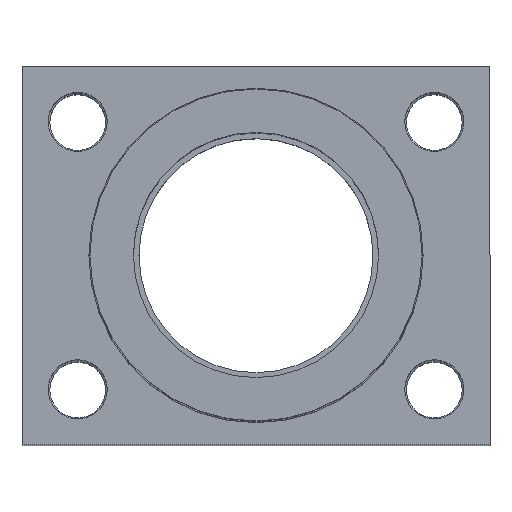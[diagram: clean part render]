
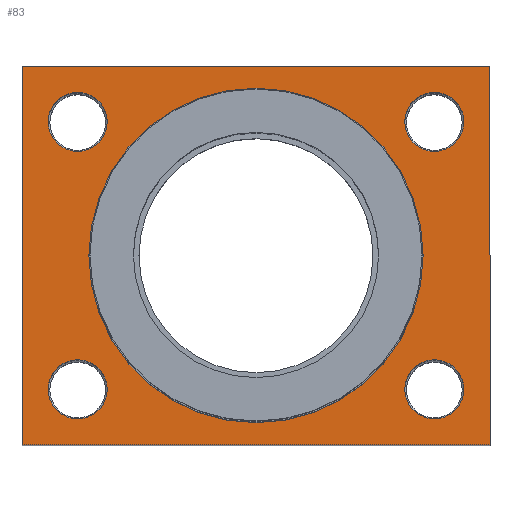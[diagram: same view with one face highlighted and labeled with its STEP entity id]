
A CAD part, top view. The second image highlights one B-rep face of the part: STEP entity #83.
In plain terms, the highlighted planar face has unit normal (0, 0, 1).
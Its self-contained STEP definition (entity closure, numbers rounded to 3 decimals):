
#15 = EDGE_LOOP ( 'NONE', ( #1266, #22, #41, #778 ) ) ;
#22 = ORIENTED_EDGE ( 'NONE', *, *, #1739, .T. ) ;
#41 = ORIENTED_EDGE ( 'NONE', *, *, #1457, .T. ) ;
#49 = EDGE_CURVE ( 'NONE', #1110, #50, #786, .T. ) ;
#50 = VERTEX_POINT ( 'NONE', #1218 ) ;
#51 = ORIENTED_EDGE ( 'NONE', *, *, #900, .F. ) ;
#83 = ADVANCED_FACE ( 'NONE', ( #483, #1100, #1272, #1710, #1108, #178 ), #1724, .T. ) ;
#117 = CARTESIAN_POINT ( 'NONE',  ( -16., 12., 8. ) ) ;
#167 = CARTESIAN_POINT ( 'NONE',  ( -21., -17., 8. ) ) ;
#173 = CIRCLE ( 'NONE', #1571, 2.65 ) ;
#176 = CARTESIAN_POINT ( 'NONE',  ( -16., -12., 8. ) ) ;
#178 = FACE_OUTER_BOUND ( 'NONE', #15, .T. ) ;
#179 = LINE ( 'NONE', #1233, #1469 ) ;
#222 = DIRECTION ( 'NONE',  ( 0., 0., 1. ) ) ;
#233 = VECTOR ( 'NONE', #549, 1000. ) ;
#241 = CARTESIAN_POINT ( 'NONE',  ( 16., -12., 8. ) ) ;
#249 = DIRECTION ( 'NONE',  ( 1., 0., 0. ) ) ;
#278 = EDGE_LOOP ( 'NONE', ( #1140, #394 ) ) ;
#284 = EDGE_CURVE ( 'NONE', #771, #477, #1926, .T. ) ;
#289 = CARTESIAN_POINT ( 'NONE',  ( -13.35, -12., 8. ) ) ;
#312 = DIRECTION ( 'NONE',  ( 1., 0., 0. ) ) ;
#324 = CIRCLE ( 'NONE', #1271, 2.65 ) ;
#330 = CIRCLE ( 'NONE', #1115, 2.65 ) ;
#345 = CARTESIAN_POINT ( 'NONE',  ( -21., -17., 8. ) ) ;
#351 = ORIENTED_EDGE ( 'NONE', *, *, #1555, .F. ) ;
#382 = EDGE_CURVE ( 'NONE', #50, #1110, #1340, .T. ) ;
#394 = ORIENTED_EDGE ( 'NONE', *, *, #1460, .F. ) ;
#421 = VERTEX_POINT ( 'NONE', #1834 ) ;
#468 = AXIS2_PLACEMENT_3D ( 'NONE', #907, #1228, #899 ) ;
#469 = CARTESIAN_POINT ( 'NONE',  ( 16., 12., 8. ) ) ;
#472 = CARTESIAN_POINT ( 'NONE',  ( 16., 12., 8. ) ) ;
#475 = CIRCLE ( 'NONE', #1510, 15. ) ;
#477 = VERTEX_POINT ( 'NONE', #887 ) ;
#483 = FACE_BOUND ( 'NONE', #1254, .T. ) ;
#495 = CIRCLE ( 'NONE', #761, 2.65 ) ;
#509 = ORIENTED_EDGE ( 'NONE', *, *, #751, .F. ) ;
#534 = VECTOR ( 'NONE', #1686, 1000. ) ;
#549 = DIRECTION ( 'NONE',  ( 0., -1., 0. ) ) ;
#552 = VERTEX_POINT ( 'NONE', #783 ) ;
#564 = AXIS2_PLACEMENT_3D ( 'NONE', #1757, #222, #985 ) ;
#580 = VERTEX_POINT ( 'NONE', #1549 ) ;
#605 = EDGE_CURVE ( 'NONE', #1857, #1906, #732, .T. ) ;
#636 = CARTESIAN_POINT ( 'NONE',  ( -16., -12., 8. ) ) ;
#646 = VERTEX_POINT ( 'NONE', #1446 ) ;
#650 = CARTESIAN_POINT ( 'NONE',  ( 13.35, -12., 8. ) ) ;
#694 = CIRCLE ( 'NONE', #860, 2.65 ) ;
#698 = VERTEX_POINT ( 'NONE', #810 ) ;
#701 = CARTESIAN_POINT ( 'NONE',  ( 16., -12., 8. ) ) ;
#709 = DIRECTION ( 'NONE',  ( 0., 0., 1. ) ) ;
#724 = ORIENTED_EDGE ( 'NONE', *, *, #49, .F. ) ;
#729 = AXIS2_PLACEMENT_3D ( 'NONE', #636, #1258, #1715 ) ;
#732 = CIRCLE ( 'NONE', #729, 2.65 ) ;
#733 = LINE ( 'NONE', #1796, #233 ) ;
#748 = DIRECTION ( 'NONE',  ( 1., 0., 0. ) ) ;
#751 = EDGE_CURVE ( 'NONE', #477, #771, #475, .T. ) ;
#759 = AXIS2_PLACEMENT_3D ( 'NONE', #1716, #2013, #1700 ) ;
#761 = AXIS2_PLACEMENT_3D ( 'NONE', #472, #1092, #312 ) ;
#771 = VERTEX_POINT ( 'NONE', #866 ) ;
#778 = ORIENTED_EDGE ( 'NONE', *, *, #1913, .T. ) ;
#783 = CARTESIAN_POINT ( 'NONE',  ( -21., 17., 8. ) ) ;
#786 = CIRCLE ( 'NONE', #916, 2.65 ) ;
#790 = DIRECTION ( 'NONE',  ( 0., 0., 1. ) ) ;
#805 = EDGE_LOOP ( 'NONE', ( #1073, #724 ) ) ;
#810 = CARTESIAN_POINT ( 'NONE',  ( 13.35, 12., 8. ) ) ;
#852 = VERTEX_POINT ( 'NONE', #1631 ) ;
#860 = AXIS2_PLACEMENT_3D ( 'NONE', #241, #709, #1487 ) ;
#866 = CARTESIAN_POINT ( 'NONE',  ( -15., 0., 8. ) ) ;
#887 = CARTESIAN_POINT ( 'NONE',  ( 15., 0., 8. ) ) ;
#899 = DIRECTION ( 'NONE',  ( 1., 0., 0. ) ) ;
#900 = EDGE_CURVE ( 'NONE', #1427, #421, #694, .T. ) ;
#907 = CARTESIAN_POINT ( 'NONE',  ( -16., 12., 8. ) ) ;
#916 = AXIS2_PLACEMENT_3D ( 'NONE', #117, #1532, #748 ) ;
#985 = DIRECTION ( 'NONE',  ( 1., 0., 0. ) ) ;
#995 = ORIENTED_EDGE ( 'NONE', *, *, #1892, .F. ) ;
#1073 = ORIENTED_EDGE ( 'NONE', *, *, #382, .F. ) ;
#1092 = DIRECTION ( 'NONE',  ( 0., 0., 1. ) ) ;
#1100 = FACE_BOUND ( 'NONE', #805, .T. ) ;
#1108 = FACE_BOUND ( 'NONE', #1294, .T. ) ;
#1110 = VERTEX_POINT ( 'NONE', #2006 ) ;
#1115 = AXIS2_PLACEMENT_3D ( 'NONE', #176, #790, #1720 ) ;
#1140 = ORIENTED_EDGE ( 'NONE', *, *, #605, .F. ) ;
#1180 = CARTESIAN_POINT ( 'NONE',  ( 0., 0., 8. ) ) ;
#1204 = EDGE_CURVE ( 'NONE', #421, #1427, #173, .T. ) ;
#1218 = CARTESIAN_POINT ( 'NONE',  ( -13.35, 12., 8. ) ) ;
#1228 = DIRECTION ( 'NONE',  ( 0., 0., 1. ) ) ;
#1233 = CARTESIAN_POINT ( 'NONE',  ( 21., 17., 8. ) ) ;
#1243 = VECTOR ( 'NONE', #1369, 1000. ) ;
#1254 = EDGE_LOOP ( 'NONE', ( #351, #995 ) ) ;
#1258 = DIRECTION ( 'NONE',  ( 0., 0., 1. ) ) ;
#1266 = ORIENTED_EDGE ( 'NONE', *, *, #1941, .T. ) ;
#1271 = AXIS2_PLACEMENT_3D ( 'NONE', #469, #1740, #1273 ) ;
#1272 = FACE_BOUND ( 'NONE', #278, .T. ) ;
#1273 = DIRECTION ( 'NONE',  ( 1., 0., 0. ) ) ;
#1294 = EDGE_LOOP ( 'NONE', ( #509, #1485 ) ) ;
#1340 = CIRCLE ( 'NONE', #468, 2.65 ) ;
#1369 = DIRECTION ( 'NONE',  ( 0., 1., 0. ) ) ;
#1427 = VERTEX_POINT ( 'NONE', #650 ) ;
#1439 = CARTESIAN_POINT ( 'NONE',  ( -18.65, -12., 8. ) ) ;
#1446 = CARTESIAN_POINT ( 'NONE',  ( 21., -17., 8. ) ) ;
#1457 = EDGE_CURVE ( 'NONE', #1613, #646, #1538, .T. ) ;
#1460 = EDGE_CURVE ( 'NONE', #1906, #1857, #330, .T. ) ;
#1469 = VECTOR ( 'NONE', #1546, 1000. ) ;
#1478 = DIRECTION ( 'NONE',  ( 0., 0., 1. ) ) ;
#1485 = ORIENTED_EDGE ( 'NONE', *, *, #284, .F. ) ;
#1487 = DIRECTION ( 'NONE',  ( 1., 0., 0. ) ) ;
#1507 = DIRECTION ( 'NONE',  ( 0., 0., 1. ) ) ;
#1510 = AXIS2_PLACEMENT_3D ( 'NONE', #1180, #1507, #249 ) ;
#1532 = DIRECTION ( 'NONE',  ( 0., 0., 1. ) ) ;
#1538 = LINE ( 'NONE', #167, #534 ) ;
#1546 = DIRECTION ( 'NONE',  ( -1., 0., 0. ) ) ;
#1549 = CARTESIAN_POINT ( 'NONE',  ( 21., 17., 8. ) ) ;
#1555 = EDGE_CURVE ( 'NONE', #852, #698, #495, .T. ) ;
#1571 = AXIS2_PLACEMENT_3D ( 'NONE', #701, #1478, #1595 ) ;
#1595 = DIRECTION ( 'NONE',  ( 1., 0., 0. ) ) ;
#1613 = VERTEX_POINT ( 'NONE', #345 ) ;
#1631 = CARTESIAN_POINT ( 'NONE',  ( 18.65, 12., 8. ) ) ;
#1686 = DIRECTION ( 'NONE',  ( 1., 0., 0. ) ) ;
#1700 = DIRECTION ( 'NONE',  ( 1., 0., 0. ) ) ;
#1710 = FACE_BOUND ( 'NONE', #1770, .T. ) ;
#1715 = DIRECTION ( 'NONE',  ( 1., 0., 0. ) ) ;
#1716 = CARTESIAN_POINT ( 'NONE',  ( 0., 0., 8. ) ) ;
#1720 = DIRECTION ( 'NONE',  ( 1., 0., 0. ) ) ;
#1724 = PLANE ( 'NONE',  #759 ) ;
#1739 = EDGE_CURVE ( 'NONE', #552, #1613, #733, .T. ) ;
#1740 = DIRECTION ( 'NONE',  ( 0., 0., 1. ) ) ;
#1757 = CARTESIAN_POINT ( 'NONE',  ( 0., 0., 8. ) ) ;
#1761 = ORIENTED_EDGE ( 'NONE', *, *, #1204, .F. ) ;
#1770 = EDGE_LOOP ( 'NONE', ( #1761, #51 ) ) ;
#1796 = CARTESIAN_POINT ( 'NONE',  ( -21., 17., 8. ) ) ;
#1834 = CARTESIAN_POINT ( 'NONE',  ( 18.65, -12., 8. ) ) ;
#1847 = LINE ( 'NONE', #1894, #1243 ) ;
#1857 = VERTEX_POINT ( 'NONE', #289 ) ;
#1892 = EDGE_CURVE ( 'NONE', #698, #852, #324, .T. ) ;
#1894 = CARTESIAN_POINT ( 'NONE',  ( 21., -17., 8. ) ) ;
#1906 = VERTEX_POINT ( 'NONE', #1439 ) ;
#1913 = EDGE_CURVE ( 'NONE', #646, #580, #1847, .T. ) ;
#1926 = CIRCLE ( 'NONE', #564, 15. ) ;
#1941 = EDGE_CURVE ( 'NONE', #580, #552, #179, .T. ) ;
#2006 = CARTESIAN_POINT ( 'NONE',  ( -18.65, 12., 8. ) ) ;
#2013 = DIRECTION ( 'NONE',  ( 0., 0., 1. ) ) ;
